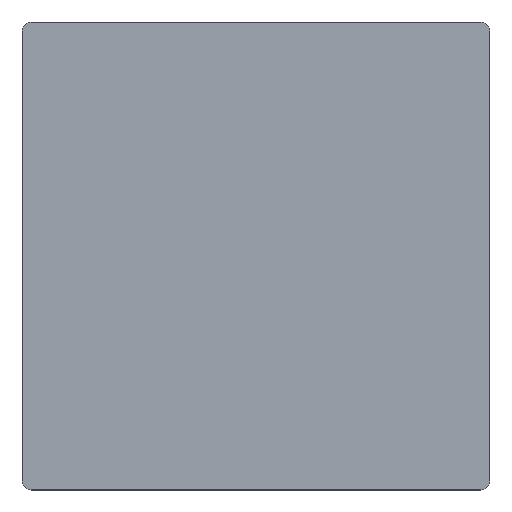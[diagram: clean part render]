
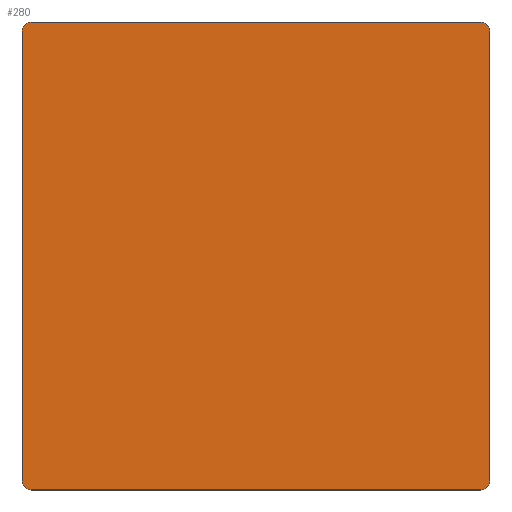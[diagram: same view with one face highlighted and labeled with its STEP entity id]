
A CAD part, top view. The second image highlights one B-rep face of the part: STEP entity #280.
In plain terms, the highlighted planar face has unit normal (0, 0, 1).
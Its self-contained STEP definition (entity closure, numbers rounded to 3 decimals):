
#3 = CIRCLE ( 'NONE', #18, 2.1 ) ;
#6 = EDGE_CURVE ( 'NONE', #265, #186, #207, .T. ) ;
#12 = VERTEX_POINT ( 'NONE', #187 ) ;
#13 = CARTESIAN_POINT ( 'NONE',  ( 52.25, 52.25, 5. ) ) ;
#16 = LINE ( 'NONE', #223, #208 ) ;
#18 = AXIS2_PLACEMENT_3D ( 'NONE', #306, #82, #220 ) ;
#27 = CARTESIAN_POINT ( 'NONE',  ( -50.15, 50.15, 5. ) ) ;
#36 = ORIENTED_EDGE ( 'NONE', *, *, #122, .T. ) ;
#37 = AXIS2_PLACEMENT_3D ( 'NONE', #44, #142, #245 ) ;
#39 = ORIENTED_EDGE ( 'NONE', *, *, #177, .T. ) ;
#44 = CARTESIAN_POINT ( 'NONE',  ( 50.15, 50.15, 5. ) ) ;
#45 = PLANE ( 'NONE',  #232 ) ;
#46 = CIRCLE ( 'NONE', #98, 2.1 ) ;
#48 = FACE_OUTER_BOUND ( 'NONE', #317, .T. ) ;
#60 = DIRECTION ( 'NONE',  ( -1., 0., 0. ) ) ;
#62 = ORIENTED_EDGE ( 'NONE', *, *, #6, .T. ) ;
#75 = VERTEX_POINT ( 'NONE', #261 ) ;
#80 = ORIENTED_EDGE ( 'NONE', *, *, #190, .T. ) ;
#82 = DIRECTION ( 'NONE',  ( 0., 0., 1. ) ) ;
#94 = DIRECTION ( 'NONE',  ( 0., -1., 0. ) ) ;
#98 = AXIS2_PLACEMENT_3D ( 'NONE', #131, #236, #110 ) ;
#106 = ORIENTED_EDGE ( 'NONE', *, *, #199, .T. ) ;
#107 = LINE ( 'NONE', #13, #233 ) ;
#110 = DIRECTION ( 'NONE',  ( -1., 0., 0. ) ) ;
#111 = ORIENTED_EDGE ( 'NONE', *, *, #276, .T. ) ;
#118 = LINE ( 'NONE', #143, #206 ) ;
#120 = VERTEX_POINT ( 'NONE', #263 ) ;
#121 = DIRECTION ( 'NONE',  ( -1., 0., 0. ) ) ;
#122 = EDGE_CURVE ( 'NONE', #186, #75, #107, .T. ) ;
#131 = CARTESIAN_POINT ( 'NONE',  ( -50.15, -50.15, 5. ) ) ;
#134 = VERTEX_POINT ( 'NONE', #290 ) ;
#142 = DIRECTION ( 'NONE',  ( 0., 0., 1. ) ) ;
#143 = CARTESIAN_POINT ( 'NONE',  ( -52.25, -52.25, 5. ) ) ;
#144 = DIRECTION ( 'NONE',  ( 1., 0., 0. ) ) ;
#147 = CARTESIAN_POINT ( 'NONE',  ( 50.15, -52.25, 5. ) ) ;
#158 = AXIS2_PLACEMENT_3D ( 'NONE', #27, #298, #194 ) ;
#161 = EDGE_CURVE ( 'NONE', #120, #134, #46, .T. ) ;
#168 = CARTESIAN_POINT ( 'NONE',  ( 52.25, 50.15, 5. ) ) ;
#177 = EDGE_CURVE ( 'NONE', #211, #311, #3, .T. ) ;
#186 = VERTEX_POINT ( 'NONE', #316 ) ;
#187 = CARTESIAN_POINT ( 'NONE',  ( -52.25, 50.15, 5. ) ) ;
#190 = EDGE_CURVE ( 'NONE', #12, #120, #118, .T. ) ;
#194 = DIRECTION ( 'NONE',  ( -1., 0., 0. ) ) ;
#195 = ORIENTED_EDGE ( 'NONE', *, *, #161, .T. ) ;
#199 = EDGE_CURVE ( 'NONE', #311, #265, #16, .T. ) ;
#206 = VECTOR ( 'NONE', #94, 1000. ) ;
#207 = CIRCLE ( 'NONE', #37, 2.1 ) ;
#208 = VECTOR ( 'NONE', #247, 1000. ) ;
#211 = VERTEX_POINT ( 'NONE', #147 ) ;
#212 = EDGE_CURVE ( 'NONE', #75, #12, #234, .T. ) ;
#220 = DIRECTION ( 'NONE',  ( -1., 0., 0. ) ) ;
#223 = CARTESIAN_POINT ( 'NONE',  ( 52.25, -52.25, 5. ) ) ;
#232 = AXIS2_PLACEMENT_3D ( 'NONE', #250, #249, #121 ) ;
#233 = VECTOR ( 'NONE', #60, 1000. ) ;
#234 = CIRCLE ( 'NONE', #158, 2.1 ) ;
#236 = DIRECTION ( 'NONE',  ( 0., 0., 1. ) ) ;
#239 = ORIENTED_EDGE ( 'NONE', *, *, #212, .T. ) ;
#244 = CARTESIAN_POINT ( 'NONE',  ( 52.25, -50.15, 5. ) ) ;
#245 = DIRECTION ( 'NONE',  ( -1., 0., 0. ) ) ;
#247 = DIRECTION ( 'NONE',  ( 0., 1., 0. ) ) ;
#249 = DIRECTION ( 'NONE',  ( 0., 0., -1. ) ) ;
#250 = CARTESIAN_POINT ( 'NONE',  ( 0., 0., 5. ) ) ;
#261 = CARTESIAN_POINT ( 'NONE',  ( -50.15, 52.25, 5. ) ) ;
#263 = CARTESIAN_POINT ( 'NONE',  ( -52.25, -50.15, 5. ) ) ;
#265 = VERTEX_POINT ( 'NONE', #168 ) ;
#268 = LINE ( 'NONE', #273, #309 ) ;
#273 = CARTESIAN_POINT ( 'NONE',  ( 52.25, -52.25, 5. ) ) ;
#276 = EDGE_CURVE ( 'NONE', #134, #211, #268, .T. ) ;
#280 = ADVANCED_FACE ( 'NONE', ( #48 ), #45, .F. ) ;
#290 = CARTESIAN_POINT ( 'NONE',  ( -50.15, -52.25, 5. ) ) ;
#298 = DIRECTION ( 'NONE',  ( 0., 0., 1. ) ) ;
#306 = CARTESIAN_POINT ( 'NONE',  ( 50.15, -50.15, 5. ) ) ;
#309 = VECTOR ( 'NONE', #144, 1000. ) ;
#311 = VERTEX_POINT ( 'NONE', #244 ) ;
#316 = CARTESIAN_POINT ( 'NONE',  ( 50.15, 52.25, 5. ) ) ;
#317 = EDGE_LOOP ( 'NONE', ( #80, #195, #111, #39, #106, #62, #36, #239 ) ) ;
